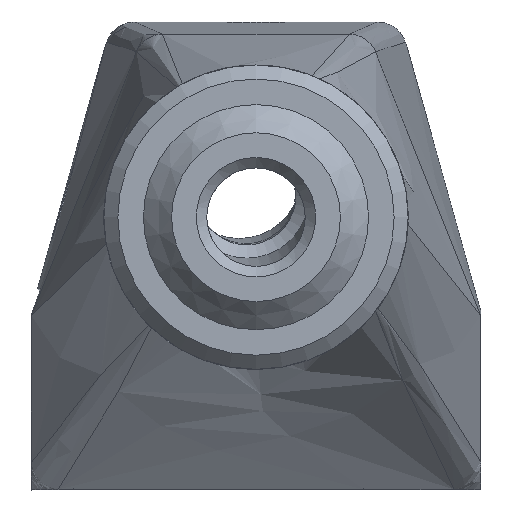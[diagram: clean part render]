
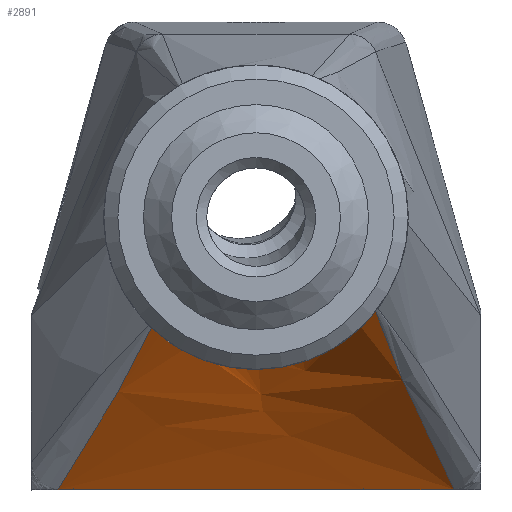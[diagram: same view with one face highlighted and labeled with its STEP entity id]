
A CAD part, front view. The second image highlights one B-rep face of the part: STEP entity #2891.
In plain terms, the highlighted free-form (B-spline) face has degree [3, 1] with [18, 2] control points.
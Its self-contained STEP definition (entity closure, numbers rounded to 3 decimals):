
#1064=CARTESIAN_POINT('',(-13.023,50.,27.634));
#1065=VERTEX_POINT('',#1064);
#1073=CARTESIAN_POINT('',(-14.076,50.,27.634));
#1074=VERTEX_POINT('',#1073);
#1075=CARTESIAN_POINT('',(-14.076,50.,27.634));
#1076=DIRECTION('',(1.,-0.,-0.));
#1077=VECTOR('',#1076,1.053);
#1078=LINE('',#1075,#1077);
#1079=EDGE_CURVE('',#1074,#1065,#1078,.T.);
#2294=CARTESIAN_POINT('',(14.083,50.,27.634));
#2295=VERTEX_POINT('',#2294);
#2318=CARTESIAN_POINT('',(7.663,50.,27.634));
#2319=VERTEX_POINT('',#2318);
#2320=CARTESIAN_POINT('',(7.663,50.,27.634));
#2321=DIRECTION('',(1.,-0.,-0.));
#2322=VECTOR('',#2321,6.42);
#2323=LINE('',#2320,#2322);
#2324=EDGE_CURVE('',#2319,#2295,#2323,.T.);
#2675=CARTESIAN_POINT('',(-13.023,50.,27.634));
#2676=DIRECTION('',(1.,-0.,-0.));
#2677=VECTOR('',#2676,20.686);
#2678=LINE('',#2675,#2677);
#2679=EDGE_CURVE('',#1065,#2319,#2678,.T.);
#2758=CARTESIAN_POINT('',(-15.848,50.,27.634));
#2759=CARTESIAN_POINT('',(-7.2,18.725,39.582));
#2760=CARTESIAN_POINT('',(-14.557,50.,27.634));
#2761=CARTESIAN_POINT('',(-6.682,18.725,39.102));
#2762=CARTESIAN_POINT('',(-13.266,50.,27.634));
#2763=CARTESIAN_POINT('',(-6.112,18.725,38.674));
#2764=CARTESIAN_POINT('',(-10.644,50.,27.634));
#2765=CARTESIAN_POINT('',(-4.878,18.725,37.929));
#2766=CARTESIAN_POINT('',(-9.313,50.,27.634));
#2767=CARTESIAN_POINT('',(-4.211,18.725,37.616));
#2768=CARTESIAN_POINT('',(-6.652,50.,27.634));
#2769=CARTESIAN_POINT('',(-2.823,18.725,37.134));
#2770=CARTESIAN_POINT('',(-5.322,50.,27.634));
#2771=CARTESIAN_POINT('',(-2.103,18.725,36.965));
#2772=CARTESIAN_POINT('',(-2.661,50.,27.634));
#2773=CARTESIAN_POINT('',(-0.643,18.725,36.78));
#2774=CARTESIAN_POINT('',(-1.33,50.,27.634));
#2775=CARTESIAN_POINT('',(0.097,18.725,36.763));
#2776=CARTESIAN_POINT('',(1.33,50.,27.634));
#2777=CARTESIAN_POINT('',(1.564,18.725,36.883));
#2778=CARTESIAN_POINT('',(2.661,50.,27.634));
#2779=CARTESIAN_POINT('',(2.292,18.725,37.02));
#2780=CARTESIAN_POINT('',(5.322,50.,27.634));
#2781=CARTESIAN_POINT('',(3.7,18.725,37.44));
#2782=CARTESIAN_POINT('',(6.652,50.,27.634));
#2783=CARTESIAN_POINT('',(4.381,18.725,37.723));
#2784=CARTESIAN_POINT('',(9.313,50.,27.634));
#2785=CARTESIAN_POINT('',(5.668,18.725,38.423));
#2786=CARTESIAN_POINT('',(10.644,50.,27.634));
#2787=CARTESIAN_POINT('',(6.273,18.725,38.839));
#2788=CARTESIAN_POINT('',(13.264,50.,27.634));
#2789=CARTESIAN_POINT('',(7.364,18.725,39.772));
#2790=CARTESIAN_POINT('',(14.554,50.,27.634));
#2791=CARTESIAN_POINT('',(7.852,18.725,40.285));
#2792=CARTESIAN_POINT('',(15.843,50.,27.634));
#2793=CARTESIAN_POINT('',(8.282,18.725,40.84));
#2794=B_SPLINE_SURFACE_WITH_KNOTS('',3,1,((#2758,#2759),(#2760,#2761),(#2762,#2763),(#2764,#2765),(#2766,#2767),(#2768,#2769),(#2770,#2771),(#2772,#2773),(#2774,#2775),(#2776,#2777),(#2778,#2779),(#2780,#2781),(#2782,#2783),(#2784,#2785),(#2786,#2787),(#2788,#2789),(#2790,#2791),(#2792,#2793)),.UNSPECIFIED.,.F.,.F.,.U.,(4,2,2,2,2,2,2,2,4),(2,2),(0.004,0.125,0.25,0.375,0.5,0.625,0.75,0.875,0.996),(0.,0.977),.UNSPECIFIED.);
#2795=ORIENTED_EDGE('',*,*,#2324,.T.);
#2796=CARTESIAN_POINT('',(8.282,18.728,40.839));
#2797=VERTEX_POINT('',#2796);
#2798=CARTESIAN_POINT('',(14.083,50.,27.634));
#2799=CARTESIAN_POINT('',(13.556,47.386,28.677));
#2800=CARTESIAN_POINT('',(13.037,44.77,29.72));
#2801=CARTESIAN_POINT('',(12.531,42.154,30.771));
#2802=CARTESIAN_POINT('',(12.025,39.537,31.821));
#2803=CARTESIAN_POINT('',(11.531,36.92,32.877));
#2804=CARTESIAN_POINT('',(11.052,34.305,33.951));
#2805=CARTESIAN_POINT('',(10.573,31.69,35.025));
#2806=CARTESIAN_POINT('',(10.11,29.076,36.117));
#2807=CARTESIAN_POINT('',(9.656,26.475,37.254));
#2808=CARTESIAN_POINT('',(9.429,25.174,37.823));
#2809=CARTESIAN_POINT('',(9.204,23.876,38.403));
#2810=CARTESIAN_POINT('',(8.977,22.584,38.999));
#2811=CARTESIAN_POINT('',(8.75,21.292,39.595));
#2812=CARTESIAN_POINT('',(8.521,20.005,40.208));
#2813=CARTESIAN_POINT('',(8.283,18.727,40.838));
#2814=B_SPLINE_CURVE_WITH_KNOTS('',3,(#2798,#2799,#2800,#2801,#2802,#2803,#2804,#2805,#2806,#2807,#2808,#2809,#2810,#2811,#2812,#2813),.UNSPECIFIED.,.F.,.F.,(4,3,3,3,3,4),(0.011,0.019,0.028,0.037,0.041,0.045),.UNSPECIFIED.);
#2815=EDGE_CURVE('',#2295,#2797,#2814,.T.);
#2816=ORIENTED_EDGE('',*,*,#2815,.T.);
#2817=CARTESIAN_POINT('',(-7.2,18.725,39.582));
#2818=VERTEX_POINT('',#2817);
#2819=CARTESIAN_POINT('',(8.283,18.727,40.838));
#2820=CARTESIAN_POINT('',(7.84,18.731,40.264));
#2821=CARTESIAN_POINT('',(7.335,18.735,39.735));
#2822=CARTESIAN_POINT('',(6.778,18.74,39.263));
#2823=CARTESIAN_POINT('',(6.499,18.743,39.027));
#2824=CARTESIAN_POINT('',(6.208,18.745,38.805));
#2825=CARTESIAN_POINT('',(5.906,18.748,38.599));
#2826=CARTESIAN_POINT('',(5.755,18.75,38.496));
#2827=CARTESIAN_POINT('',(5.601,18.751,38.397));
#2828=CARTESIAN_POINT('',(5.444,18.753,38.302));
#2829=CARTESIAN_POINT('',(5.366,18.754,38.254));
#2830=CARTESIAN_POINT('',(5.287,18.755,38.208));
#2831=CARTESIAN_POINT('',(5.207,18.756,38.162));
#2832=CARTESIAN_POINT('',(5.167,18.756,38.139));
#2833=CARTESIAN_POINT('',(5.128,18.756,38.117));
#2834=CARTESIAN_POINT('',(5.087,18.757,38.095));
#2835=CARTESIAN_POINT('',(5.047,18.757,38.072));
#2836=CARTESIAN_POINT('',(5.003,18.758,38.048));
#2837=CARTESIAN_POINT('',(4.982,18.758,38.037));
#2838=CARTESIAN_POINT('',(4.647,18.762,37.856));
#2839=CARTESIAN_POINT('',(4.15,18.764,37.607));
#2840=CARTESIAN_POINT('',(3.462,18.766,37.367));
#2841=CARTESIAN_POINT('',(3.118,18.767,37.247));
#2842=CARTESIAN_POINT('',(2.726,18.767,37.13));
#2843=CARTESIAN_POINT('',(2.285,18.768,37.032));
#2844=CARTESIAN_POINT('',(2.065,18.768,36.982));
#2845=CARTESIAN_POINT('',(1.832,18.768,36.938));
#2846=CARTESIAN_POINT('',(1.587,18.768,36.9));
#2847=CARTESIAN_POINT('',(1.465,18.768,36.881));
#2848=CARTESIAN_POINT('',(1.34,18.768,36.864));
#2849=CARTESIAN_POINT('',(1.211,18.768,36.849));
#2850=CARTESIAN_POINT('',(1.147,18.768,36.841));
#2851=CARTESIAN_POINT('',(1.082,18.768,36.834));
#2852=CARTESIAN_POINT('',(1.016,18.768,36.827));
#2853=CARTESIAN_POINT('',(0.984,18.768,36.824));
#2854=CARTESIAN_POINT('',(0.95,18.768,36.821));
#2855=CARTESIAN_POINT('',(0.917,18.768,36.818));
#2856=CARTESIAN_POINT('',(0.884,18.768,36.815));
#2857=CARTESIAN_POINT('',(0.84,18.768,36.811));
#2858=CARTESIAN_POINT('',(0.818,18.768,36.81));
#2859=CARTESIAN_POINT('',(-0.565,18.768,36.698));
#2860=CARTESIAN_POINT('',(-2.011,18.764,36.859));
#2861=CARTESIAN_POINT('',(-3.393,18.757,37.321));
#2862=CARTESIAN_POINT('',(-4.775,18.75,37.783));
#2863=CARTESIAN_POINT('',(-6.092,18.739,38.547));
#2864=CARTESIAN_POINT('',(-7.2,18.725,39.582));
#2865=B_SPLINE_CURVE_WITH_KNOTS('',3,(#2819,#2820,#2821,#2822,#2823,#2824,#2825,#2826,#2827,#2828,#2829,#2830,#2831,#2832,#2833,#2834,#2835,#2836,#2837,#2838,#2839,#2840,#2841,#2842,#2843,#2844,
#2845,#2846,#2847,#2848,#2849,#2850,#2851,#2852,#2853,#2854,#2855,#2856,#2857,#2858,#2859,#2860,#2861,#2862,#2863,#2864),.UNSPECIFIED.,.F.,.F.,(4,3,3,3,3,3,3,3,3,3,3,3,3,3,3,4),(0.004,0.128,0.19,0.221,0.236,0.244,0.252,0.376,0.438,0.469,0.485,0.492,0.496,0.5,0.748,0.996),.UNSPECIFIED.);
#2866=EDGE_CURVE('',#2797,#2818,#2865,.T.);
#2867=ORIENTED_EDGE('',*,*,#2866,.T.);
#2868=CARTESIAN_POINT('',(-7.2,18.725,39.582));
#2869=CARTESIAN_POINT('',(-7.474,20.011,39.014));
#2870=CARTESIAN_POINT('',(-7.743,21.305,38.464));
#2871=CARTESIAN_POINT('',(-8.012,22.602,37.927));
#2872=CARTESIAN_POINT('',(-8.282,23.898,37.391));
#2873=CARTESIAN_POINT('',(-8.553,25.199,36.868));
#2874=CARTESIAN_POINT('',(-8.826,26.501,36.355));
#2875=CARTESIAN_POINT('',(-9.373,29.106,35.329));
#2876=CARTESIAN_POINT('',(-9.932,31.718,34.339));
#2877=CARTESIAN_POINT('',(-10.504,34.33,33.365));
#2878=CARTESIAN_POINT('',(-11.077,36.942,32.39));
#2879=CARTESIAN_POINT('',(-11.663,39.555,31.432));
#2880=CARTESIAN_POINT('',(-12.259,42.167,30.478));
#2881=CARTESIAN_POINT('',(-12.855,44.779,29.525));
#2882=CARTESIAN_POINT('',(-13.461,47.39,28.579));
#2883=CARTESIAN_POINT('',(-14.076,50.,27.634));
#2884=B_SPLINE_CURVE_WITH_KNOTS('',3,(#2868,#2869,#2870,#2871,#2872,#2873,#2874,#2875,#2876,#2877,#2878,#2879,#2880,#2881,#2882,#2883),.UNSPECIFIED.,.F.,.F.,(4,3,3,3,3,4),(0.011,0.015,0.019,0.028,0.037,0.045),.UNSPECIFIED.);
#2885=EDGE_CURVE('',#2818,#1074,#2884,.T.);
#2886=ORIENTED_EDGE('',*,*,#2885,.T.);
#2887=ORIENTED_EDGE('',*,*,#1079,.T.);
#2888=ORIENTED_EDGE('',*,*,#2679,.T.);
#2889=EDGE_LOOP('',(#2795,#2816,#2867,#2886,#2887,#2888));
#2890=FACE_BOUND('',#2889,.T.);
#2891=ADVANCED_FACE('',(#2890),#2794,.T.);
